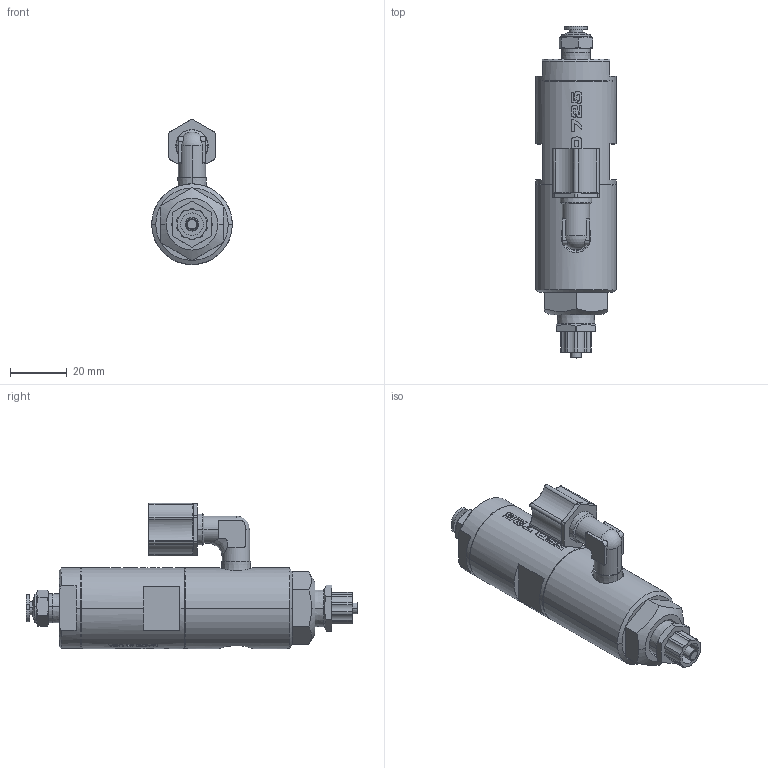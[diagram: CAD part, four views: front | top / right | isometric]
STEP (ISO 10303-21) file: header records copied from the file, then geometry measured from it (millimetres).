
FILE_DESCRIPTION (( 'STEP AP214' ), '1' );
FILE_NAME ('NORDSONEFD-7021009 725D-SS PISTON VALVE SS FLUID CHAMBER.STEP', '2019-03-06T03:08:02', ( '' ), ( '' ), 'SwSTEP 2.0', 'SolidWorks 2019', '' );
FILE_SCHEMA (( 'AUTOMOTIVE_DESIGN' ));
Length unit declared in the file: inch
Products named in the file (1): NORDSONEFD-7021009 725D-SS PISTON VALVE SS FLUID CHAMBER
Bounding box: 28.45 x 117.08 x 51.15 mm (x, y, z)
Volume: 61446.6 mm3; surface area: 13326.7 mm2
Topology: 1 solids, 1 shells, 1068 faces, 2823 edges, 1851 vertices
Faces by surface type: plane 452, bspline 345, cylinder 172, cone 50, torus 48, sphere 1
Entity records: 48841 total; most frequent: CARTESIAN_POINT 23085, ORIENTED_EDGE 5640, DIRECTION 3896, EDGE_CURVE 2820, VERTEX_POINT 1851, LINE 1320, VECTOR 1320, AXIS2_PLACEMENT_3D 1288
